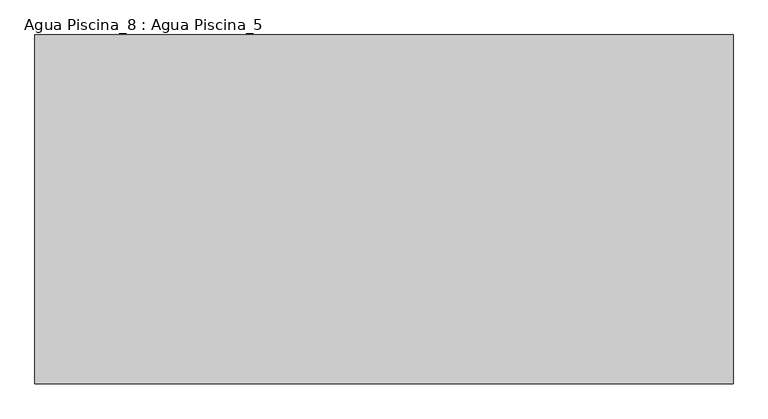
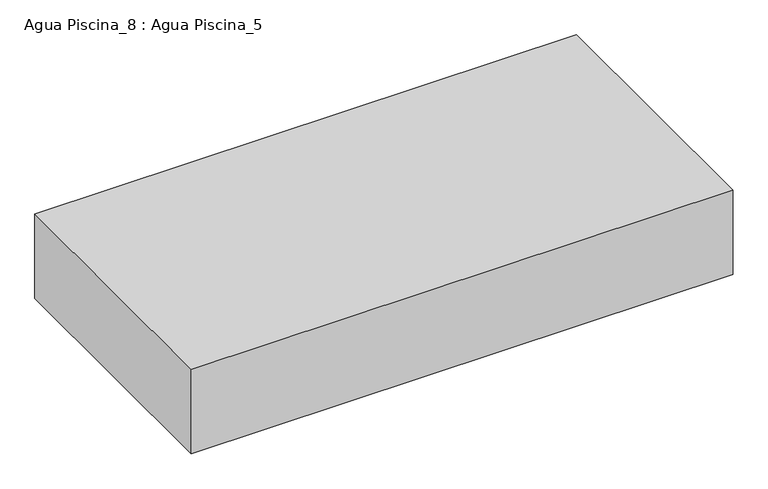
"""IFC4 building model written with IfcOpenShell, lengths in millimetres: proxy geometry, Agua Piscina_8 : Agua Piscina_5."""

from ifc_helpers import new_model, si_unit, frame, origin, place, context, project, spatial, polyline, outline, extrude, source, transform, mapped, element, save


def agua_piscina_8_agua_piscina_5_d33188af(model_context):
    return source(origin(), model_context, "Body", "SweptSolid", [
        extrude(outline(polyline([(-6076.2314, -58578.0763483), (-6076.2314, -62578.0763483), (-14076.2314, -62578.0763483), (-14076.2314, -58578.0763483), (-6076.2314, -58578.0763483)])), frame((0.0, 0.0, -1452.5297685), z_axis=(0.0, 0.0, 1.0), x_axis=(1.0, 0.0, 0.0)), (0.0, 0.0, 1.0), 1318.4439647),
    ])


if __name__ == "__main__":
    model = new_model("IFC4")
    model_context = context("Model", 3, world=origin())
    ifc_project = project(units=[si_unit("LENGTHUNIT", "METRE", prefix="MILLI")], contexts=[model_context])
    site = spatial("IfcSite", under=ifc_project)
    building = spatial("IfcBuilding", under=site)
    placement = place(None, origin())
    agua_piscina_8_agua_piscina_5_shape = agua_piscina_8_agua_piscina_5_d33188af(model_context)
    element("IfcBuildingElementProxy", 1, Name="Agua Piscina_8 : Agua Piscina_5", ObjectType="Agua Piscina_8 : Agua Piscina_5", at=placement, inside=building, context=model_context, shape_type="MappedRepresentation", body=[
        mapped(agua_piscina_8_agua_piscina_5_shape, transform((0.0, 0.0, 0.0), x_axis=(1.0, 0.0, 0.0), y_axis=(0.0, 1.0, 0.0), z_axis=(0.0, 0.0, 1.0))),
    ])
    save(model, "model.ifc")
